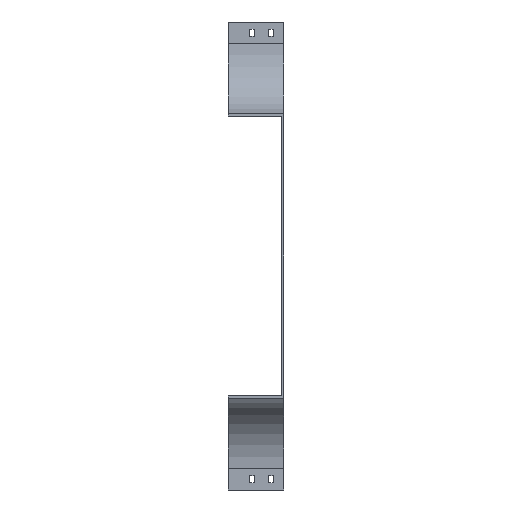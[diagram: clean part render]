
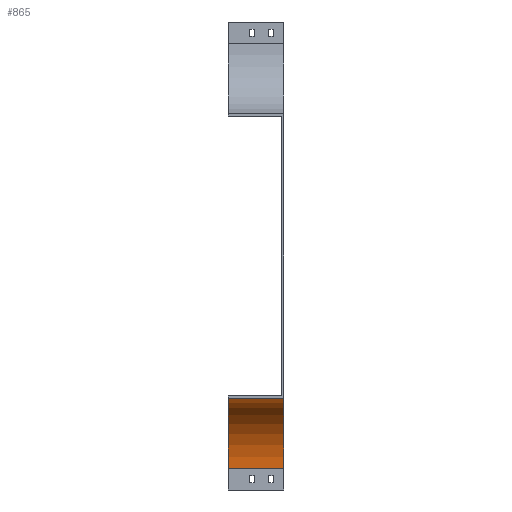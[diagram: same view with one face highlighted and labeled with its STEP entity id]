
A CAD part, left-side view. The second image highlights one B-rep face of the part: STEP entity #865.
In plain terms, the highlighted cylindrical face has radius 100 mm (diameter 200 mm), a partial arc.
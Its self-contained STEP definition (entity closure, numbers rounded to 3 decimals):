
#5 = EDGE_CURVE ( 'NONE', #560, #2867, #1713, .T. ) ;
#59 = ORIENTED_EDGE ( 'NONE', *, *, #1550, .T. ) ;
#219 = VECTOR ( 'NONE', #841, 1000. ) ;
#349 = AXIS2_PLACEMENT_3D ( 'NONE', #3234, #1492, #3544 ) ;
#391 = DIRECTION ( 'NONE',  ( 0., 0., -1. ) ) ;
#471 = DIRECTION ( 'NONE',  ( 0., 0., -1. ) ) ;
#560 = VERTEX_POINT ( 'NONE', #2085 ) ;
#691 = CARTESIAN_POINT ( 'NONE',  ( -504., 79., -604. ) ) ;
#841 = DIRECTION ( 'NONE',  ( 0., -1., 0. ) ) ;
#865 = ADVANCED_FACE ( 'NONE', ( #1250 ), #987, .F. ) ;
#876 = VERTEX_POINT ( 'NONE', #691 ) ;
#969 = CARTESIAN_POINT ( 'NONE',  ( -604., 79., -604. ) ) ;
#987 = CYLINDRICAL_SURFACE ( 'NONE', #2710, 100. ) ;
#1068 = CARTESIAN_POINT ( 'NONE',  ( -604., 0., -604. ) ) ;
#1184 = ORIENTED_EDGE ( 'NONE', *, *, #3013, .T. ) ;
#1250 = FACE_OUTER_BOUND ( 'NONE', #1340, .T. ) ;
#1299 = EDGE_CURVE ( 'NONE', #876, #560, #2334, .T. ) ;
#1340 = EDGE_LOOP ( 'NONE', ( #59, #1534, #1448, #1184 ) ) ;
#1448 = ORIENTED_EDGE ( 'NONE', *, *, #1299, .F. ) ;
#1492 = DIRECTION ( 'NONE',  ( 0., -1., 0. ) ) ;
#1534 = ORIENTED_EDGE ( 'NONE', *, *, #5, .F. ) ;
#1548 = AXIS2_PLACEMENT_3D ( 'NONE', #1068, #3123, #471 ) ;
#1550 = EDGE_CURVE ( 'NONE', #2877, #2867, #3172, .T. ) ;
#1713 = LINE ( 'NONE', #2651, #219 ) ;
#1950 = CARTESIAN_POINT ( 'NONE',  ( -504., 79., -604. ) ) ;
#2059 = VECTOR ( 'NONE', #3457, 1000. ) ;
#2085 = CARTESIAN_POINT ( 'NONE',  ( -604., 79., -504. ) ) ;
#2334 = CIRCLE ( 'NONE', #349, 100. ) ;
#2389 = CARTESIAN_POINT ( 'NONE',  ( -504., 0., -604. ) ) ;
#2651 = CARTESIAN_POINT ( 'NONE',  ( -604., 79., -504. ) ) ;
#2710 = AXIS2_PLACEMENT_3D ( 'NONE', #969, #2807, #391 ) ;
#2807 = DIRECTION ( 'NONE',  ( 0., -1., 0. ) ) ;
#2867 = VERTEX_POINT ( 'NONE', #2911 ) ;
#2877 = VERTEX_POINT ( 'NONE', #2389 ) ;
#2911 = CARTESIAN_POINT ( 'NONE',  ( -604., 0., -504. ) ) ;
#3013 = EDGE_CURVE ( 'NONE', #876, #2877, #3133, .T. ) ;
#3123 = DIRECTION ( 'NONE',  ( 0., -1., 0. ) ) ;
#3133 = LINE ( 'NONE', #1950, #2059 ) ;
#3172 = CIRCLE ( 'NONE', #1548, 100. ) ;
#3234 = CARTESIAN_POINT ( 'NONE',  ( -604., 79., -604. ) ) ;
#3457 = DIRECTION ( 'NONE',  ( 0., -1., 0. ) ) ;
#3544 = DIRECTION ( 'NONE',  ( 0., 0., -1. ) ) ;
